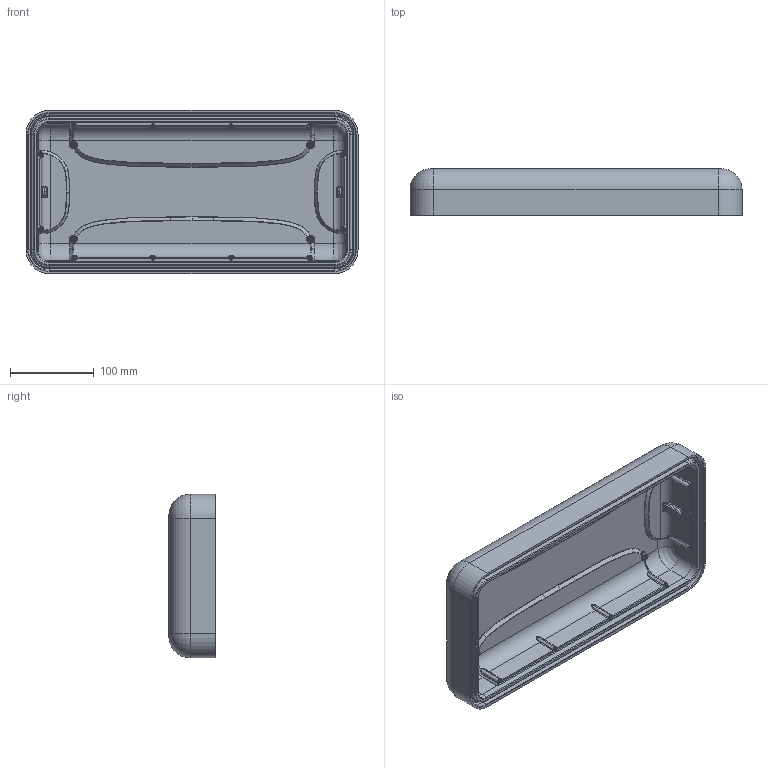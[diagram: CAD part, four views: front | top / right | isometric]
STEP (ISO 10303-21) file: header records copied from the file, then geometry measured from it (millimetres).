
FILE_DESCRIPTION (( 'STEP AP203' ), '1' );
FILE_NAME ('T30_TOP_INNER SURF.STEP', '2024-05-21T14:01:51', ( '' ), ( '' ), 'SwSTEP 2.0', 'SolidWorks 2022', '' );
FILE_SCHEMA (( 'CONFIG_CONTROL_DESIGN' ));
Products named in the file (1): T30_TOP_INNER SURF
Bounding box: 396.63 x 55.37 x 195.46 mm (x, y, z)
Volume: 1273141.5 mm3; surface area: 267331.5 mm2
Topology: 1 solids, 1 shells, 941 faces, 2296 edges, 1400 vertices
Faces by surface type: bspline 326, plane 293, torus 148, cylinder 92, cone 82
Entity records: 50283 total; most frequent: CARTESIAN_POINT 30454, ORIENTED_EDGE 4576, DIRECTION 3428, EDGE_CURVE 2288, VERTEX_POINT 1400, AXIS2_PLACEMENT_3D 1260, EDGE_LOOP 992, ADVANCED_FACE 941
